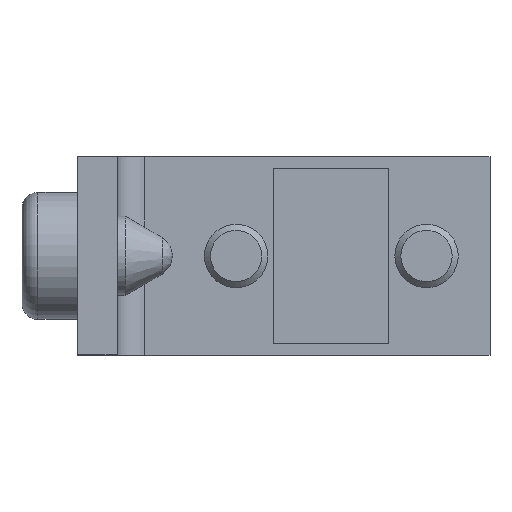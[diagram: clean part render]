
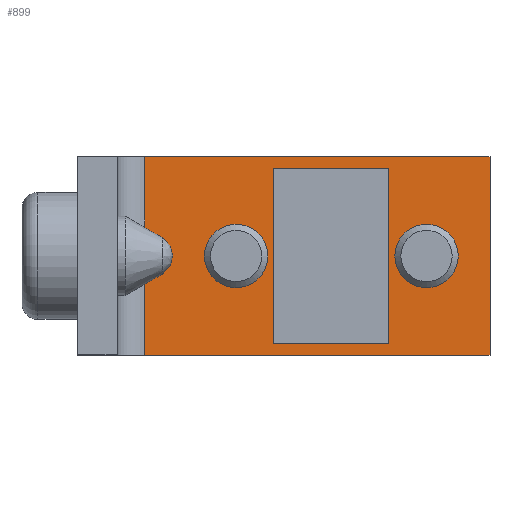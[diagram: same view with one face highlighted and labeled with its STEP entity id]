
A CAD part, top view. The second image highlights one B-rep face of the part: STEP entity #899.
In plain terms, the highlighted planar face has unit normal (0, 0, 1).
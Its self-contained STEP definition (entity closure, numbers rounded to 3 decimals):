
#71=FACE_BOUND('',#229,.T.);
#72=FACE_BOUND('',#230,.T.);
#73=FACE_BOUND('',#231,.T.);
#107=CIRCLE('',#975,3.324);
#108=CIRCLE('',#976,3.324);
#163=FACE_OUTER_BOUND('',#228,.T.);
#228=EDGE_LOOP('',(#665,#666,#667,#668));
#229=EDGE_LOOP('',(#669,#670,#671,#672));
#230=EDGE_LOOP('',(#673));
#231=EDGE_LOOP('',(#674));
#308=LINE('',#1351,#368);
#311=LINE('',#1357,#371);
#314=LINE('',#1363,#374);
#317=LINE('',#1367,#377);
#323=LINE('',#1394,#383);
#326=LINE('',#1400,#386);
#331=LINE('',#1414,#391);
#332=LINE('',#1415,#392);
#368=VECTOR('',#1069,22.);
#371=VECTOR('',#1074,14.5);
#374=VECTOR('',#1079,22.);
#377=VECTOR('',#1084,14.5);
#383=VECTOR('',#1112,25.);
#386=VECTOR('',#1119,43.5);
#391=VECTOR('',#1132,43.5);
#392=VECTOR('',#1133,25.);
#428=VERTEX_POINT('',#1348);
#429=VERTEX_POINT('',#1350);
#431=VERTEX_POINT('',#1356);
#433=VERTEX_POINT('',#1362);
#437=VERTEX_POINT('',#1376);
#440=VERTEX_POINT('',#1384);
#444=VERTEX_POINT('',#1399);
#449=VERTEX_POINT('',#1413);
#450=VERTEX_POINT('',#1416);
#451=VERTEX_POINT('',#1418);
#507=EDGE_CURVE('',#429,#428,#308,.T.);
#510=EDGE_CURVE('',#431,#429,#311,.T.);
#513=EDGE_CURVE('',#433,#431,#314,.T.);
#516=EDGE_CURVE('',#428,#433,#317,.T.);
#528=EDGE_CURVE('',#440,#437,#323,.T.);
#531=EDGE_CURVE('',#440,#444,#326,.T.);
#538=EDGE_CURVE('',#449,#437,#331,.T.);
#539=EDGE_CURVE('',#444,#449,#332,.T.);
#540=EDGE_CURVE('',#450,#450,#107,.T.);
#541=EDGE_CURVE('',#451,#451,#108,.T.);
#665=ORIENTED_EDGE('',*,*,#528,.T.);
#666=ORIENTED_EDGE('',*,*,#538,.F.);
#667=ORIENTED_EDGE('',*,*,#539,.F.);
#668=ORIENTED_EDGE('',*,*,#531,.F.);
#669=ORIENTED_EDGE('',*,*,#507,.T.);
#670=ORIENTED_EDGE('',*,*,#516,.T.);
#671=ORIENTED_EDGE('',*,*,#513,.T.);
#672=ORIENTED_EDGE('',*,*,#510,.T.);
#673=ORIENTED_EDGE('',*,*,#540,.T.);
#674=ORIENTED_EDGE('',*,*,#541,.T.);
#850=PLANE('',#974);
#899=ADVANCED_FACE('',(#163,#71,#72,#73),#850,.T.);
#974=AXIS2_PLACEMENT_3D('',#1412,#1130,#1131);
#975=AXIS2_PLACEMENT_3D('',#1417,#1134,#1135);
#976=AXIS2_PLACEMENT_3D('',#1419,#1136,#1137);
#1069=DIRECTION('',(0.,1.,0.));
#1074=DIRECTION('',(-1.,0.,0.));
#1079=DIRECTION('',(0.,-1.,0.));
#1084=DIRECTION('',(1.,0.,0.));
#1112=DIRECTION('',(0.,-1.,0.));
#1119=DIRECTION('',(1.,0.,0.));
#1130=DIRECTION('center_axis',(0.,0.,1.));
#1131=DIRECTION('ref_axis',(1.,0.,0.));
#1132=DIRECTION('',(-1.,0.,0.));
#1133=DIRECTION('',(0.,-1.,0.));
#1134=DIRECTION('center_axis',(0.,0.,-1.));
#1135=DIRECTION('ref_axis',(1.,0.,0.));
#1136=DIRECTION('center_axis',(0.,0.,-1.));
#1137=DIRECTION('ref_axis',(1.,0.,0.));
#1348=CARTESIAN_POINT('',(7.75,11.,5.));
#1350=CARTESIAN_POINT('',(7.75,-11.,5.));
#1351=CARTESIAN_POINT('',(7.75,5.5,5.));
#1356=CARTESIAN_POINT('',(22.25,-11.,5.));
#1357=CARTESIAN_POINT('',(3.875,-11.,5.));
#1362=CARTESIAN_POINT('',(22.25,11.,5.));
#1363=CARTESIAN_POINT('',(22.25,-5.5,5.));
#1367=CARTESIAN_POINT('',(11.125,11.,5.));
#1376=CARTESIAN_POINT('',(-8.5,-12.5,5.));
#1384=CARTESIAN_POINT('',(-8.5,12.5,5.));
#1394=CARTESIAN_POINT('',(-8.5,6.25,5.));
#1399=CARTESIAN_POINT('',(35.,12.5,5.));
#1400=CARTESIAN_POINT('',(-35.,12.5,5.));
#1412=CARTESIAN_POINT('Origin',(0.,0.,
5.));
#1413=CARTESIAN_POINT('',(35.,-12.5,5.));
#1414=CARTESIAN_POINT('',(35.,-12.5,5.));
#1415=CARTESIAN_POINT('',(35.,12.5,5.));
#1416=CARTESIAN_POINT('',(30.324,0.,5.));
#1417=CARTESIAN_POINT('Origin',(27.,0.,5.));
#1418=CARTESIAN_POINT('',(6.323,0.,5.));
#1419=CARTESIAN_POINT('Origin',(3.,0.,5.));
